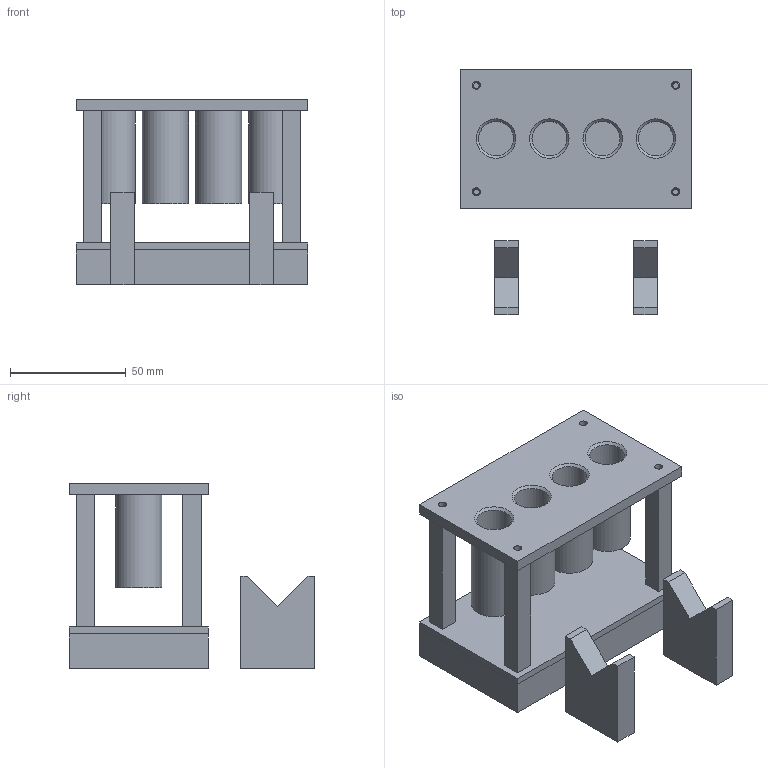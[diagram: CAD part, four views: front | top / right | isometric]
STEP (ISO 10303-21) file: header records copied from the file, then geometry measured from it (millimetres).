
FILE_DESCRIPTION(('Open CASCADE Model'),'2;1');
FILE_NAME('Open CASCADE Shape Model','2026-10-21T16:58:02',('Author'),( 'Open CASCADE'),'Open CASCADE STEP processor 7.9','Open CASCADE 7.9' ,'Unknown');
FILE_SCHEMA(('AUTOMOTIVE_DESIGN { 1 0 10303 214 1 1 1 1 }'));
Length unit declared in the file: millimetre
Products named in the file (6): P05_illustrative; rack_weight_base_0; rack_weight_lid_1; rack_guide_15_2; tube_v_rest_3; tube_v_rest_4
Assembly tree (5 placements, depth 2):
  P05_illustrative
    rack_weight_base_0
    rack_weight_lid_1
    rack_guide_15_2
    tube_v_rest_3
    tube_v_rest_4
Bounding box: 100 x 106 x 80 mm (x, y, z)
Volume: 139082 mm3; surface area: 84595.5 mm2
Topology: 5 solids, 5 shells, 118 faces, 266 edges, 176 vertices
Faces by surface type: plane 86, cylinder 28, cone 4
Full cylindrical faces by diameter (mm): 2.5 x4, 3.4 x8, 15 x4, 20 x4
Entity records: 7028 total; most frequent: CARTESIAN_POINT 1314, DIRECTION 1070, LINE 682, VECTOR 682, ORIENTED_EDGE 532, PCURVE 532, DEFINITIONAL_REPRESENTATION 532, EDGE_CURVE 266
